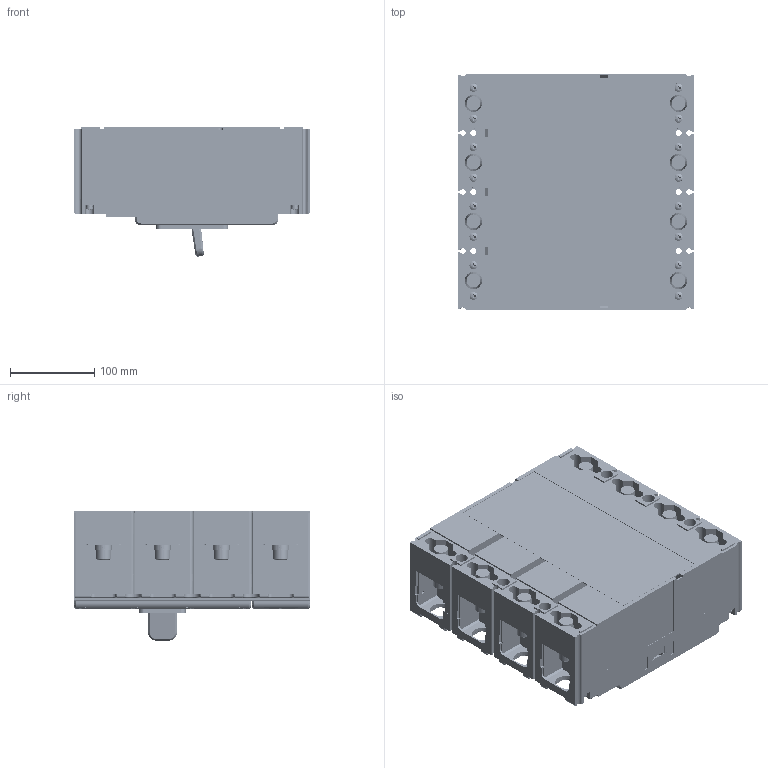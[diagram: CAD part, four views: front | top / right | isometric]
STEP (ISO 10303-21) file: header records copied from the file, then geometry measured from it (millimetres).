
FILE_DESCRIPTION((''),'2;1');
FILE_NAME('800-02_ASM','2023-05-29T',('ling.zeng'),(''),'PRO/ENGINEER BY PARAMETRIC TECHNOLOGY CORPORATION, 2015440','PRO/ENGINEER BY PARAMETRIC TECHNOLOGY CORPORATION, 2015440','');
FILE_SCHEMA(('CONFIG_CONTROL_DESIGN'));
Products named in the file (56): JIZUO_5024040200_1; PRT0001; 5024040200_ASM_1_ASM; PRT0002; PRT0008; ASM0002_ASM; ASM0001_ASM; 5551089800_ASM_1_ASM; 5551090000_ASM_1_ASM; MANIFOLD_SOLID_BREP_297248; MANIFOLD_SOLID_BREP_297398; 85052008P04_1_ASM; 5510021200_ASM_1_ASM; 5510021000_ASM_1_ASM; 5510021100_ASM_1_ASM; 8551039600_1; PRT0046; ASM0016_ASM; PRT0047; PRT0048; ASM0015_ASM; PRT0075; PRT0077; PRT0078; 5295004500_ASM_1_ASM; PRT0088; PRT0089; PRT0117; PRT0118; PRT0119; ASM0033_ASM; PRT0120; PRT0121; PRT0122; ASM0034_ASM; ZHONGGAI_5315016300_1; GB_T809-M3X8_1; 5315016300_ASM_1_ASM; PRT0123; 8282201200_AF1_1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
Assembly tree (139 placements, depth 8):
  800-02_ASM
    2253014300_ASM_1_ASM
      5295004500_ASM_1_ASM
        5024040200_ASM_1_ASM
          JIZUO_5024040200_1
          PRT0001  x11
        PRT0002  x8
        5551090000_ASM_1_ASM
          5551089800_ASM_1_ASM
            ASM0001_ASM  x4
              ASM0002_ASM
                PRT0008
        5510021100_ASM_1_ASM
          5510021000_ASM_1_ASM
            5510021200_ASM_1_ASM
              85052008P04_1_ASM  x2
                MANIFOLD_SOLID_BREP_297248
                MANIFOLD_SOLID_BREP_297398
        ASM0015_ASM  x4
          ASM0016_ASM
            8551039600_1
            PRT0046
          PRT0047
          PRT0048
        PRT0075  x4
        PRT0077  x12
        PRT0078  x8
      PRT0088  x4
      PRT0089  x4
      ASM0033_ASM  x8
        PRT0117
        PRT0118
        PRT0119
      ASM0034_ASM
        PRT0120
        PRT0121
        PRT0122
      5315016800_ASM_1_ASM
        5315016300_ASM_1_ASM
          ZHONGGAI_5315016300_1
          GB_T809-M3X8_1  x9
        PRT0123
        8282201200_AF1_1
      PRT0125
      ASM0035_ASM  x11
        PRT0126
        PRT0127
        PRT0128
      PRT0129
      8315075100_1
      PRT0130
      ASM0036_ASM  x9
        PRT0131
        PRT0132
        PRT0133
      8742116600_1
Bounding box: 280 x 280 x 153.38 mm (x, y, z)
Volume: 3320077.2 mm3; surface area: 1332656.1 mm2
Topology: 180 solids, 273 shells, 8680 faces, 22921 edges, 14933 vertices
Faces by surface type: plane 5619, cylinder 2131, cone 415, extrusion 160, torus 154, bspline 103, sphere 98
Entity records: 202675 total; most frequent: CARTESIAN_POINT 49352, ORIENTED_EDGE 32338, DIRECTION 30690, EDGE_CURVE 16197, VECTOR 12246, LINE 12086, VERTEX_POINT 10654, AXIS2_PLACEMENT_3D 9222
